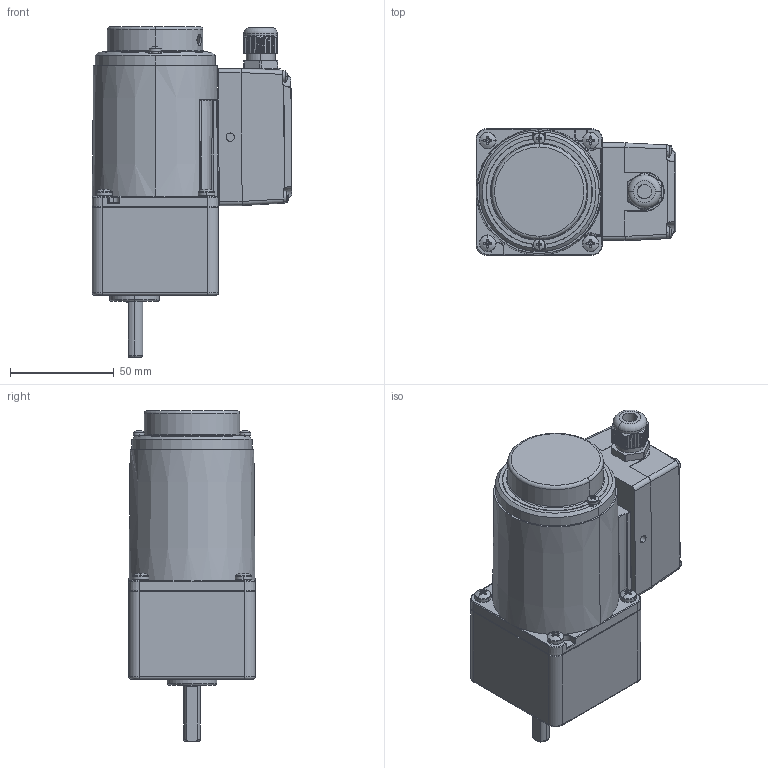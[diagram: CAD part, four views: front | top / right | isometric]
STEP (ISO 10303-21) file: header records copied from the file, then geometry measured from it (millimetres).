
FILE_DESCRIPTION (( 'STEP AP203' ), '1' );
FILE_NAME ('2IK6RGN-CT(2GN3K-200K).STEP', '2023-08-07T07:45:55', ( 'Windows User' ), ( 'P R C' ), 'SwSTEP 2.0', 'SolidWorks 2019', '' );
FILE_SCHEMA (( 'CONFIG_CONTROL_DESIGN' ));
Length unit declared in the file: millimetre
Products named in the file (13): ^___2IK6RGN-CT(2GN3K-200K)(2)_2IK6RGN-CT(2GN3K-200K); ^__2IK6RGN-CT(2GN3K-200K)(2)_2IK6RGN-CT(2GN3K-200K); ^2IK6RGN-CT(2GN3K-200K)(2)_2IK6RGN-CT(2GN3K-200K); 2IK6RGN-CT(2GN3K-200K)(2)^2IK6RGN-CT(2GN3K-200K); 2IK6RGN-CT(2GN3K-200K); ^_2IK6RGN-CT(2GN3K-200K)(2)_2IK6RGN-CT(2GN3K-200K); 葩璃 (3) ^___2IK6RGN-CT(2GN3K-200K)(2)_2IK6RGN-CT(2GN3K-200K); 葩璃 (2) ^___2IK6RGN-CT(2GN3K-200K)(2)_2IK6RGN-CT(2GN3K-200K); 葩璃 (3) ^__2IK6RGN-CT(2GN3K-200K)(2)_2IK6RGN-CT(2GN3K-200K); 葩璃 (2) ^__2IK6RGN-CT(2GN3K-200K)(2)_2IK6RGN-CT(2GN3K-200K); 2GN3K-200K^2IK6RGN-CT(2GN3K-200K)(2)_2IK6RGN-CT(2GN3K-200K)
Assembly tree (19 placements, depth 6):
  2IK6RGN-CT(2GN3K-200K)
    2IK6RGN-CT(2GN3K-200K)(2)^2IK6RGN-CT(2GN3K-200K)
      ^2IK6RGN-CT(2GN3K-200K)(2)_2IK6RGN-CT(2GN3K-200K)
        ^_2IK6RGN-CT(2GN3K-200K)(2)_2IK6RGN-CT(2GN3K-200K)
          ^__2IK6RGN-CT(2GN3K-200K)(2)_2IK6RGN-CT(2GN3K-200K)
            ^___2IK6RGN-CT(2GN3K-200K)(2)_2IK6RGN-CT(2GN3K-200K)
            葩璃 (2) ^___2IK6RGN-CT(2GN3K-200K)(2)_2IK6RGN-CT(2GN3K-200K)
            葩璃 (3) ^___2IK6RGN-CT(2GN3K-200K)(2)_2IK6RGN-CT(2GN3K-200K)  x4
          ^__2IK6RGN-CT(2GN3K-200K)(2)_2IK6RGN-CT(2GN3K-200K)
          葩璃 (2) ^__2IK6RGN-CT(2GN3K-200K)(2)_2IK6RGN-CT(2GN3K-200K)
          葩璃 (3) ^__2IK6RGN-CT(2GN3K-200K)(2)_2IK6RGN-CT(2GN3K-200K)  x2
        ^_2IK6RGN-CT(2GN3K-200K)(2)_2IK6RGN-CT(2GN3K-200K)  x4
      2GN3K-200K^2IK6RGN-CT(2GN3K-200K)(2)_2IK6RGN-CT(2GN3K-200K)
Bounding box: 96.24 x 60.8 x 159.25 mm (x, y, z)
Volume: 431898.6 mm3; surface area: 82186 mm2
Topology: 15 solids, 16 shells, 2089 faces, 5395 edges, 3331 vertices
Faces by surface type: cone 871, cylinder 670, plane 357, torus 108, bspline 45, sphere 38
Entity records: 40987 total; most frequent: CARTESIAN_POINT 13219, DIRECTION 5714, ORIENTED_EDGE 5502, EDGE_CURVE 2751, AXIS2_PLACEMENT_3D 2373, VERTEX_POINT 1720, CIRCLE 1305, EDGE_LOOP 1145
